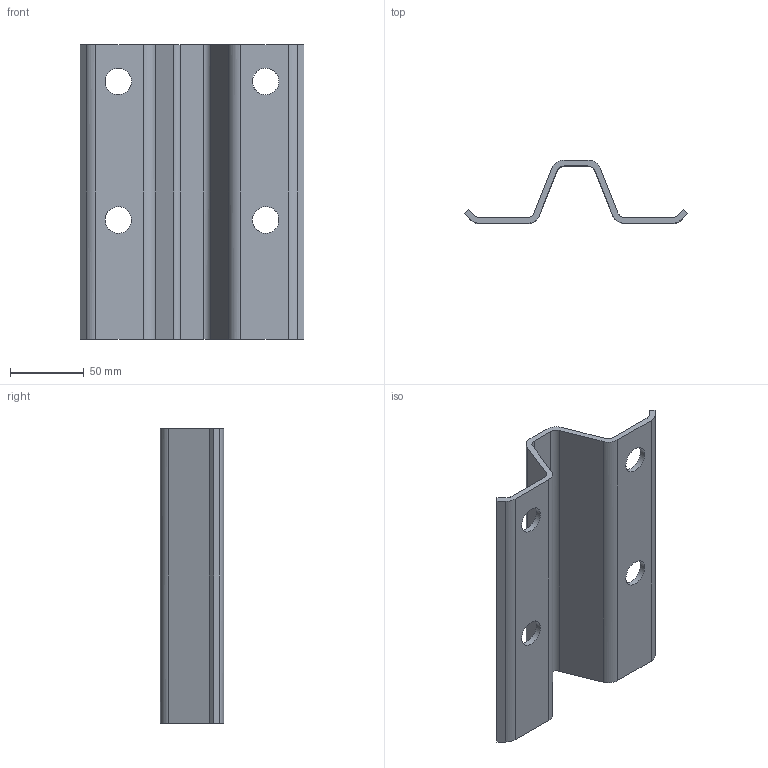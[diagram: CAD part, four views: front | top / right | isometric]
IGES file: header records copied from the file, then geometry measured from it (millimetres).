
Global section: file name: C245; native system: Autodesk RealDWG; preprocessor: Autodesk Translation Framework DWG producer (atf_dwg_producer); organization: unknown; date: 20230703.110738; units: centimetre
Bounding box: 151.72 x 43 x 200 mm (x, y, z)
Volume: 157382.8 mm3; surface area: 82814.8 mm2
Topology: 1 solids, 1 shells, 34 faces, 96 edges, 64 vertices
Faces by surface type: bspline 34
